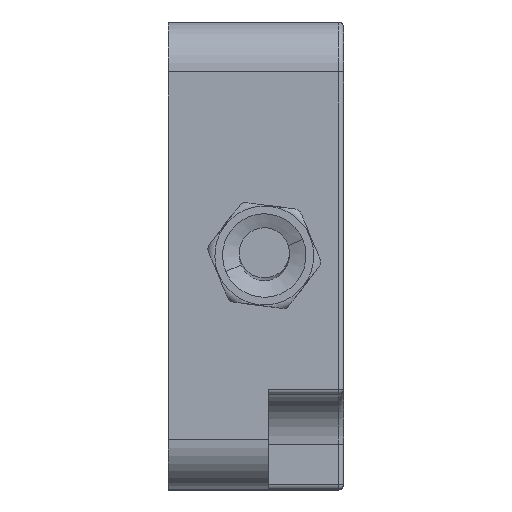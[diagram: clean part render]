
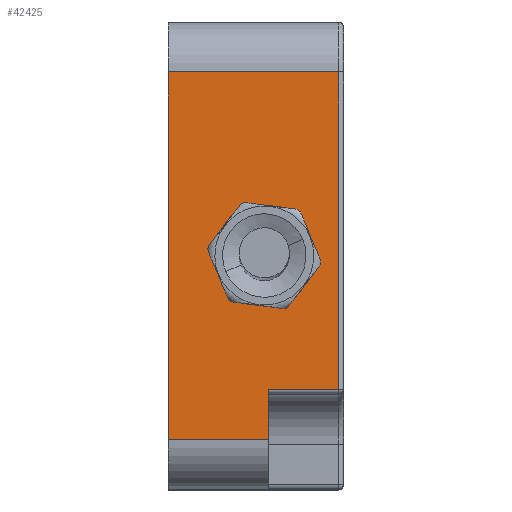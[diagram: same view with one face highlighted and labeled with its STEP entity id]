
A CAD part, top view. The second image highlights one B-rep face of the part: STEP entity #42425.
In plain terms, the highlighted planar face has unit normal (0, 0, 1).
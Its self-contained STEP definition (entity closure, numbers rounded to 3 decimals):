
#2046 = VERTEX_POINT ( 'NONE', #9818 ) ;
#2549 = EDGE_CURVE ( 'NONE', #21191, #2046, #39329, .T. ) ;
#4153 = FACE_BOUND ( 'NONE', #35765, .T. ) ;
#6886 = VERTEX_POINT ( 'NONE', #30071 ) ;
#8109 = ORIENTED_EDGE ( 'NONE', *, *, #49723, .F. ) ;
#9419 = CARTESIAN_POINT ( 'NONE',  ( 5.75, 0., 14. ) ) ;
#9724 = VECTOR ( 'NONE', #56946, 1000. ) ;
#9818 = CARTESIAN_POINT ( 'NONE',  ( 10.2, 11., 14. ) ) ;
#10730 = CARTESIAN_POINT ( 'NONE',  ( 10.5, -8., 14. ) ) ;
#11662 = CARTESIAN_POINT ( 'NONE',  ( 8.25, 0., 14. ) ) ;
#12396 = DIRECTION ( 'NONE',  ( 1., 0., 0. ) ) ;
#12757 = LINE ( 'NONE', #30094, #58828 ) ;
#14040 = VERTEX_POINT ( 'NONE', #44257 ) ;
#14270 = LINE ( 'NONE', #28119, #27745 ) ;
#14684 = DIRECTION ( 'NONE',  ( 1., 0., 0. ) ) ;
#15980 = CARTESIAN_POINT ( 'NONE',  ( 10.2, 11., 14. ) ) ;
#16264 = VECTOR ( 'NONE', #74414, 1000. ) ;
#18638 = EDGE_CURVE ( 'NONE', #14040, #53942, #12757, .T. ) ;
#19032 = DIRECTION ( 'NONE',  ( 0., -1., 0. ) ) ;
#21191 = VERTEX_POINT ( 'NONE', #42874 ) ;
#21235 = DIRECTION ( 'NONE',  ( 0., 1., 0. ) ) ;
#24624 = VECTOR ( 'NONE', #19032, 1000. ) ;
#24682 = LINE ( 'NONE', #70673, #24624 ) ;
#25184 = EDGE_CURVE ( 'NONE', #53602, #21191, #38583, .T. ) ;
#25935 = DIRECTION ( 'NONE',  ( 0., -1., 0. ) ) ;
#26671 = DIRECTION ( 'NONE',  ( 1., 0., 0. ) ) ;
#27134 = FACE_OUTER_BOUND ( 'NONE', #61268, .T. ) ;
#27631 = CIRCLE ( 'NONE', #32398, 2.5 ) ;
#27745 = VECTOR ( 'NONE', #25935, 1000. ) ;
#28119 = CARTESIAN_POINT ( 'NONE',  ( 0., 14., 14. ) ) ;
#29652 = ORIENTED_EDGE ( 'NONE', *, *, #2549, .T. ) ;
#30071 = CARTESIAN_POINT ( 'NONE',  ( 3.25, 0., 14. ) ) ;
#30094 = CARTESIAN_POINT ( 'NONE',  ( 10.5, -11., 14. ) ) ;
#31478 = EDGE_CURVE ( 'NONE', #62541, #6886, #68590, .T. ) ;
#32398 = AXIS2_PLACEMENT_3D ( 'NONE', #43611, #55341, #26671 ) ;
#32773 = EDGE_CURVE ( 'NONE', #2046, #56001, #39571, .T. ) ;
#33473 = ORIENTED_EDGE ( 'NONE', *, *, #59560, .T. ) ;
#33939 = CARTESIAN_POINT ( 'NONE',  ( 10.5, 11., 14. ) ) ;
#35241 = CARTESIAN_POINT ( 'NONE',  ( 6., -8., 14. ) ) ;
#35765 = EDGE_LOOP ( 'NONE', ( #57631, #8109 ) ) ;
#37679 = PLANE ( 'NONE',  #42688 ) ;
#38549 = ORIENTED_EDGE ( 'NONE', *, *, #32773, .T. ) ;
#38583 = LINE ( 'NONE', #10730, #16264 ) ;
#39329 = LINE ( 'NONE', #15980, #69584 ) ;
#39571 = LINE ( 'NONE', #33939, #9724 ) ;
#42425 = ADVANCED_FACE ( 'NONE', ( #4153, #27134 ), #37679, .F. ) ;
#42568 = DIRECTION ( 'NONE',  ( 0., 0., -1. ) ) ;
#42593 = ORIENTED_EDGE ( 'NONE', *, *, #63156, .F. ) ;
#42688 = AXIS2_PLACEMENT_3D ( 'NONE', #55429, #42568, #50126 ) ;
#42874 = CARTESIAN_POINT ( 'NONE',  ( 10.2, -8., 14. ) ) ;
#43611 = CARTESIAN_POINT ( 'NONE',  ( 5.75, 0., 14. ) ) ;
#44257 = CARTESIAN_POINT ( 'NONE',  ( 0., -11., 14. ) ) ;
#44761 = ORIENTED_EDGE ( 'NONE', *, *, #18638, .T. ) ;
#45703 = AXIS2_PLACEMENT_3D ( 'NONE', #9419, #71961, #14684 ) ;
#48301 = CARTESIAN_POINT ( 'NONE',  ( 0., 11., 14. ) ) ;
#49723 = EDGE_CURVE ( 'NONE', #6886, #62541, #27631, .T. ) ;
#50126 = DIRECTION ( 'NONE',  ( 0., 1., 0. ) ) ;
#53602 = VERTEX_POINT ( 'NONE', #35241 ) ;
#53942 = VERTEX_POINT ( 'NONE', #63065 ) ;
#55341 = DIRECTION ( 'NONE',  ( 0., 0., 1. ) ) ;
#55429 = CARTESIAN_POINT ( 'NONE',  ( 10.5, 14., 14. ) ) ;
#56001 = VERTEX_POINT ( 'NONE', #48301 ) ;
#56946 = DIRECTION ( 'NONE',  ( -1., 0., 0. ) ) ;
#57631 = ORIENTED_EDGE ( 'NONE', *, *, #31478, .F. ) ;
#58828 = VECTOR ( 'NONE', #12396, 1000. ) ;
#59560 = EDGE_CURVE ( 'NONE', #56001, #14040, #14270, .T. ) ;
#61268 = EDGE_LOOP ( 'NONE', ( #69116, #29652, #38549, #33473, #44761, #42593 ) ) ;
#62541 = VERTEX_POINT ( 'NONE', #11662 ) ;
#63065 = CARTESIAN_POINT ( 'NONE',  ( 6., -11., 14. ) ) ;
#63156 = EDGE_CURVE ( 'NONE', #53602, #53942, #24682, .T. ) ;
#68590 = CIRCLE ( 'NONE', #45703, 2.5 ) ;
#69116 = ORIENTED_EDGE ( 'NONE', *, *, #25184, .T. ) ;
#69584 = VECTOR ( 'NONE', #21235, 1000. ) ;
#70673 = CARTESIAN_POINT ( 'NONE',  ( 6., -8.3, 14. ) ) ;
#71961 = DIRECTION ( 'NONE',  ( 0., 0., 1. ) ) ;
#74414 = DIRECTION ( 'NONE',  ( 1., 0., 0. ) ) ;
